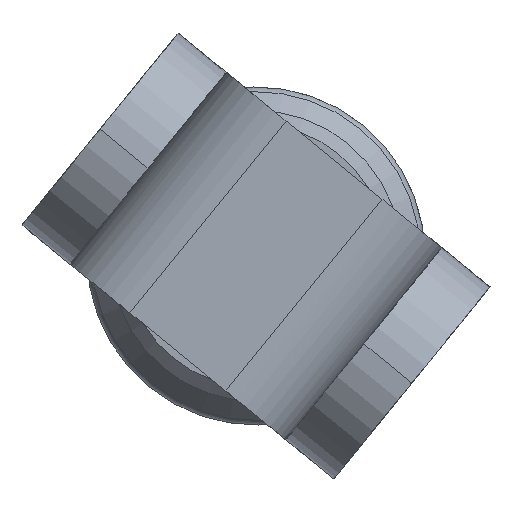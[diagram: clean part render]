
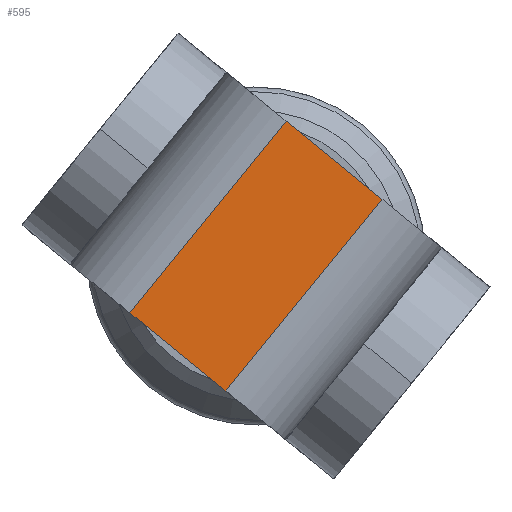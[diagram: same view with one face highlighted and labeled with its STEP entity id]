
A CAD part, front view. The second image highlights one B-rep face of the part: STEP entity #595.
In plain terms, the highlighted planar face has unit normal (0, -1, 0).
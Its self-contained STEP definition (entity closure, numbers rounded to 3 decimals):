
#160 = ORIENTED_EDGE ( 'NONE', *, *, #2069, .F. ) ;
#252 = PLANE ( 'NONE',  #578 ) ;
#294 = CARTESIAN_POINT ( 'NONE',  ( 62.089, -32.999, -881.003 ) ) ;
#516 = CARTESIAN_POINT ( 'NONE',  ( 62.089, -32.999, -881.003 ) ) ;
#578 = AXIS2_PLACEMENT_3D ( 'NONE', #3327, #1471, #1530 ) ;
#595 = ADVANCED_FACE ( 'NONE', ( #2109 ), #252, .F. ) ;
#705 = CARTESIAN_POINT ( 'NONE',  ( 72.187, -33.001, -868.592 ) ) ;
#816 = CARTESIAN_POINT ( 'NONE',  ( 65.981, -33.001, -863.543 ) ) ;
#855 = EDGE_LOOP ( 'NONE', ( #958, #2892, #160, #1186 ) ) ;
#860 = VECTOR ( 'NONE', #2923, 1000. ) ;
#958 = ORIENTED_EDGE ( 'NONE', *, *, #1230, .T. ) ;
#1003 = CARTESIAN_POINT ( 'NONE',  ( 55.883, -32.999, -875.954 ) ) ;
#1139 = CARTESIAN_POINT ( 'NONE',  ( 62.089, -32.999, -881.003 ) ) ;
#1186 = ORIENTED_EDGE ( 'NONE', *, *, #1788, .T. ) ;
#1225 = CARTESIAN_POINT ( 'NONE',  ( 55.883, -32.999, -875.954 ) ) ;
#1230 = EDGE_CURVE ( 'NONE', #1834, #2127, #1628, .T. ) ;
#1298 = VECTOR ( 'NONE', #2245, 1000. ) ;
#1460 = VERTEX_POINT ( 'NONE', #1225 ) ;
#1471 = DIRECTION ( 'NONE',  ( 0., 1., 0. ) ) ;
#1530 = DIRECTION ( 'NONE',  ( 0.776, 0., -0.631 ) ) ;
#1628 = LINE ( 'NONE', #705, #1298 ) ;
#1736 = DIRECTION ( 'NONE',  ( 0.631, 0., 0.776 ) ) ;
#1788 = EDGE_CURVE ( 'NONE', #3130, #1834, #2005, .T. ) ;
#1834 = VERTEX_POINT ( 'NONE', #3668 ) ;
#2005 = LINE ( 'NONE', #516, #2189 ) ;
#2029 = VECTOR ( 'NONE', #3458, 1000. ) ;
#2069 = EDGE_CURVE ( 'NONE', #3130, #1460, #3903, .T. ) ;
#2109 = FACE_OUTER_BOUND ( 'NONE', #855, .T. ) ;
#2127 = VERTEX_POINT ( 'NONE', #816 ) ;
#2189 = VECTOR ( 'NONE', #1736, 1000. ) ;
#2245 = DIRECTION ( 'NONE',  ( -0.776, 0., 0.631 ) ) ;
#2892 = ORIENTED_EDGE ( 'NONE', *, *, #3295, .F. ) ;
#2923 = DIRECTION ( 'NONE',  ( -0.776, 0., 0.631 ) ) ;
#3130 = VERTEX_POINT ( 'NONE', #294 ) ;
#3139 = LINE ( 'NONE', #1003, #2029 ) ;
#3295 = EDGE_CURVE ( 'NONE', #1460, #2127, #3139, .T. ) ;
#3327 = CARTESIAN_POINT ( 'NONE',  ( 62.089, -32.999, -881.003 ) ) ;
#3458 = DIRECTION ( 'NONE',  ( 0.631, 0., 0.776 ) ) ;
#3668 = CARTESIAN_POINT ( 'NONE',  ( 72.187, -33.001, -868.592 ) ) ;
#3903 = LINE ( 'NONE', #1139, #860 ) ;
